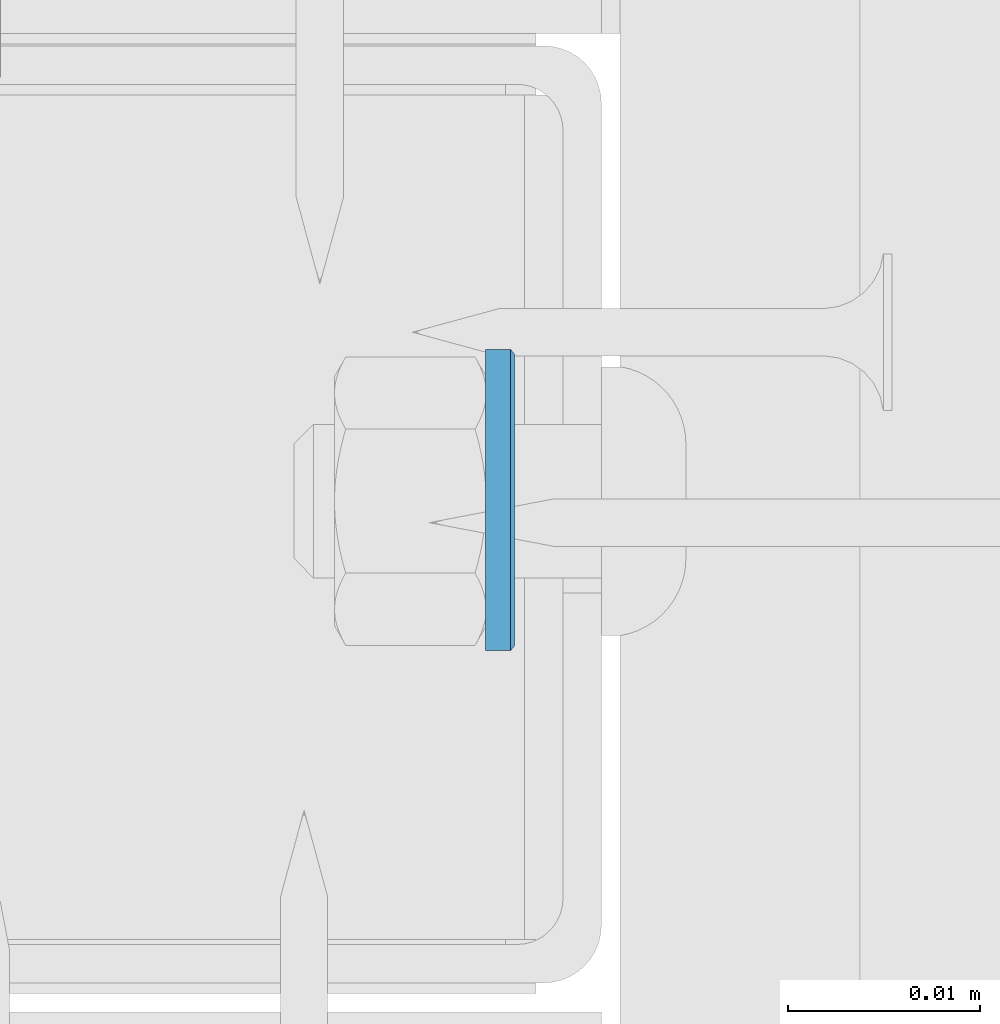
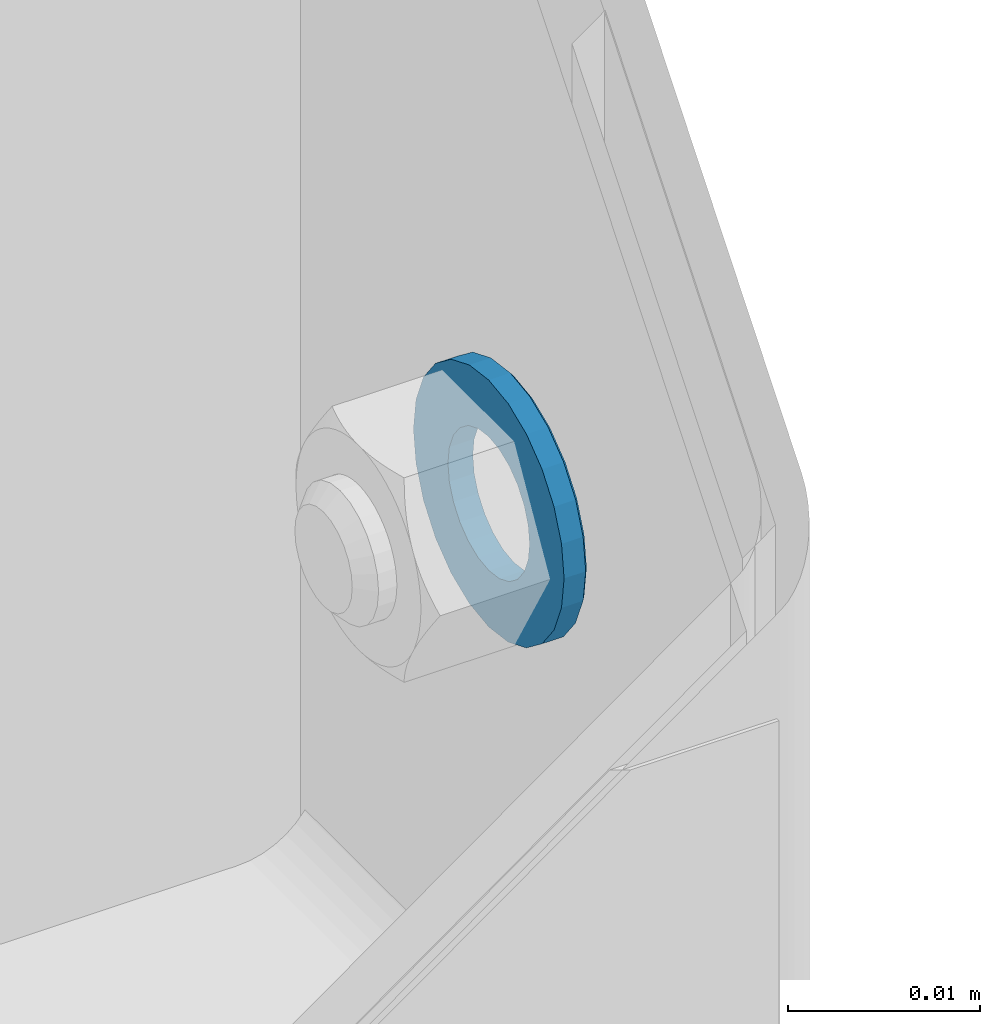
# One storey, part 48 of 52: 1 wall.
"""IFC2X3 building model written with IfcOpenShell, lengths in millimetres."""

from ifc_helpers import new_model, entity, si_unit, converted_unit, direction, frame, origin, origin_with_axes, place, context, project, spatial, faceted_brep, element, save


model = new_model("IFC2X3")

# Units and contexts
model_context = context("Model", 3, precision=1e-05, world=origin(), true_north=direction((0.0, 1.0, 0.0)))
ifc_project = project(units=[si_unit("LENGTHUNIT", "METRE", prefix="MILLI"), si_unit("AREAUNIT", "SQUARE_METRE"), si_unit("VOLUMEUNIT", "CUBIC_METRE"), converted_unit("PLANEANGLEUNIT", "DEGREE", entity("IfcPlaneAngleMeasure", 0.01745), si_unit("PLANEANGLEUNIT", "RADIAN"), dimensions=[0, 0, 0, 0, 0, 0, 0]), si_unit("SOLIDANGLEUNIT", "STERADIAN"), si_unit("MASSUNIT", "GRAM"), si_unit("TIMEUNIT", "SECOND"), si_unit("THERMODYNAMICTEMPERATUREUNIT", "DEGREE_CELSIUS"), si_unit("LUMINOUSINTENSITYUNIT", "LUMEN")], contexts=[model_context])

# Site, building, storey
site_placement = place(None, origin_with_axes())
site = spatial("IfcSite", under=ifc_project, at=site_placement, Name="Default Site", CompositionType="ELEMENT")
building_placement = place(site_placement, origin_with_axes())
building = spatial("IfcBuilding", under=site, at=building_placement, Name="Default Building", CompositionType="ELEMENT")
storey_placement = place(building_placement, origin_with_axes())
storey = spatial("IfcBuildingStorey", under=building, at=storey_placement, Name="Default Building Storey", CompositionType="ELEMENT", Elevation=0.0)

# Wall
wall_placement = place(storey_placement, frame((3482.398347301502, 1997.840795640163, 92.53402578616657), z_axis=(1.0, 0.0, 5.551115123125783e-17), x_axis=(5.551115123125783e-17, 0.0, -1.0)))
element("IfcWall", 1, at=wall_placement, inside=storey, Name="Śruba M8 do profila UA z podkładką i nakrętką", context=model_context, shape_type="Brep", body=[
    faceted_brep([(5.550788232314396, -5.550788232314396, 1.3), (6.798299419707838, -3.925000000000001, 1.3), (6.58179306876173, -3.800000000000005, 1.5), (5.374011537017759, -5.374011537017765, 1.5), (3.924999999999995, -6.798299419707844, 1.3), (3.799999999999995, -6.581793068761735, 1.5), (-7.582517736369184, 2.03172950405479, 1.3), (-7.849999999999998, 2.664535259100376e-15, 1.3), (-7.600000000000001, 4.440892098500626e-15, 1.5), (-7.34103627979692, 1.967024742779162, 1.5), (7.582517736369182, -2.031729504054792, 1.3), (7.341036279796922, -1.967024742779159, 1.5), (-5.550788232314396, 5.550788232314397, 1.3), (-6.79829941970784, 3.925000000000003, 1.3), (-6.581793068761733, 3.800000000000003, 1.5), (-5.374011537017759, 5.374011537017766, 1.5), (7.849999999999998, 8.881784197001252e-16, 1.3), (7.582517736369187, 2.031729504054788, 1.3), (7.341036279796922, 1.967024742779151, 1.5), (7.600000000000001, -2.664535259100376e-15, 1.5), (2.031729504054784, -7.582517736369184, 1.3), (1.967024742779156, -7.341036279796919, 1.5), (-8.881784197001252e-16, -7.849999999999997, 1.3), (-3.552713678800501e-15, -7.600000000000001, 1.5), (-2.031729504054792, -7.582517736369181, 1.3), (-1.967024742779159, -7.341036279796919, 1.5), (-3.925000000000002, -6.798299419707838, 1.3), (-3.800000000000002, -6.581793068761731, 1.5), (-5.5507882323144, -5.550788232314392, 1.3), (-5.374011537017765, -5.374011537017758, 1.5), (-6.798299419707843, -3.924999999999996, 1.3), (-6.581793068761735, -3.799999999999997, 1.5), (-7.582517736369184, -2.031729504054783, 1.3), (-7.34103627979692, -1.967024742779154, 1.5), (-3.924999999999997, 6.798299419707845, 1.3), (-3.799999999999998, 6.581793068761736, 1.5), (6.798299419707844, 3.925, 1.3), (6.581793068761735, 3.799999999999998, 1.5), (-2.031729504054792, -7.582517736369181, 0.0), (-8.881784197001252e-16, -7.849999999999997, 0.0), (2.031729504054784, -7.582517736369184, 0.0), (3.924999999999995, -6.798299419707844, 0.0), (-3.925000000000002, -6.798299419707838, 0.0), (5.550788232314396, -5.550788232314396, 0.0), (-7.582517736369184, -2.031729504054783, 0.0), (-6.798299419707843, -3.924999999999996, 0.0), (-5.5507882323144, -5.550788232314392, 0.0), (-7.849999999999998, 2.664535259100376e-15, 0.0), (-3.924999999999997, 6.798299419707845, 0.0), (-5.550788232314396, 5.550788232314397, 0.0), (-2.031729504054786, 7.582517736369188, 0.0), (-2.031729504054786, 7.582517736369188, 1.3), (6.798299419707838, -3.925000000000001, 0.0), (0.0, 7.849999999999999, 0.0), (0.0, 7.849999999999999, 1.3), (6.798299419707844, 3.925, 0.0), (5.550788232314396, 5.550788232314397, 0.0), (5.550788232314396, 5.550788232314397, 1.3), (7.582517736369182, -2.031729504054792, 0.0), (7.849999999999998, 8.881784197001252e-16, 0.0), (3.925000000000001, 6.798299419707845, 0.0), (3.925000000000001, 6.798299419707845, 1.3), (2.031729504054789, 7.582517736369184, 0.0), (2.031729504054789, 7.582517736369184, 1.3), (7.582517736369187, 2.031729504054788, 0.0), (-1.967024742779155, 7.341036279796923, 1.5), (1.77635683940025e-15, 7.600000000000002, 1.5), (-7.582517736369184, 2.03172950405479, 0.0), (-6.79829941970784, 3.925000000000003, 0.0), (-4.10518476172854, -1.09998094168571, 0.0), (-3.680607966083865, -2.124999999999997, 0.0), (-3.005203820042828, -3.005203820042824, 0.0), (-2.125000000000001, -3.680607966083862, 0.0), (-1.099980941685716, -4.105184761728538, 0.0), (-8.881784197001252e-16, -4.249999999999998, 0.0), (1.099980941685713, -4.105184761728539, 0.0), (2.124999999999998, -3.680607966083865, 0.0), (3.005203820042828, -3.005203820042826, 0.0), (3.680607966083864, -2.125, 0.0), (4.105184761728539, -1.099980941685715, 0.0), (4.25, 8.881784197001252e-16, 0.0), (4.105184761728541, 1.099980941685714, 0.0), (3.680607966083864, 2.125000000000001, 0.0), (3.005203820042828, 3.005203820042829, 0.0), (2.125, 3.680607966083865, 0.0), (1.099980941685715, 4.105184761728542, 0.0), (0.0, 4.250000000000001, 0.0), (-1.099980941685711, 4.105184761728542, 0.0), (-2.124999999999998, 3.680607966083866, 0.0), (-3.005203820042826, 3.005203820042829, 0.0), (-3.680607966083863, 2.125000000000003, 0.0), (-4.105184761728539, 1.099980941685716, 0.0), (-4.25, 8.881784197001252e-16, 0.0), (5.374011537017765, 5.37401153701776, 1.5), (1.967024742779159, 7.341036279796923, 1.5), (3.800000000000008, 6.581793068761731, 1.5), (-3.680607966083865, -2.124999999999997, 1.5), (-4.10518476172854, -1.09998094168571, 1.5), (-4.25, 8.881784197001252e-16, 1.5), (-4.105184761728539, 1.099980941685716, 1.5), (-3.680607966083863, 2.125000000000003, 1.5), (-3.005203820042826, 3.005203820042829, 1.5), (-2.124999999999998, 3.680607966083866, 1.5), (-1.099980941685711, 4.105184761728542, 1.5), (0.0, 4.250000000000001, 1.5), (1.099980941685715, 4.105184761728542, 1.5), (2.125, 3.680607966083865, 1.5), (3.005203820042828, 3.005203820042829, 1.5), (3.680607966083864, 2.125000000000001, 1.5), (4.105184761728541, 1.099980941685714, 1.5), (4.25, 8.881784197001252e-16, 1.5), (4.105184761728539, -1.099980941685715, 1.5), (3.680607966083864, -2.125, 1.5), (3.005203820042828, -3.005203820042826, 1.5), (2.124999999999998, -3.680607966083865, 1.5), (1.099980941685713, -4.105184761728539, 1.5), (-8.881784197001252e-16, -4.249999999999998, 1.5), (-1.099980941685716, -4.105184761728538, 1.5), (-2.125000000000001, -3.680607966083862, 1.5), (-3.005203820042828, -3.005203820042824, 1.5)], [[[0, 1, 2, 3]], [[4, 0, 3, 5]], [[6, 7, 8, 9]], [[1, 10, 11, 2]], [[12, 13, 14, 15]], [[16, 17, 18, 19]], [[10, 16, 19, 11]], [[20, 4, 5, 21]], [[22, 20, 21, 23]], [[24, 22, 23, 25]], [[26, 24, 25, 27]], [[28, 26, 27, 29]], [[30, 28, 29, 31]], [[32, 30, 31, 33]], [[7, 32, 33, 8]], [[34, 12, 15, 35]], [[13, 6, 9, 14]], [[17, 36, 37, 18]], [[38, 39, 22, 24]], [[39, 40, 20, 22]], [[40, 41, 4, 20]], [[42, 38, 24, 26]], [[41, 43, 0, 4]], [[44, 45, 30, 32]], [[45, 46, 28, 30]], [[46, 42, 26, 28]], [[47, 44, 32, 7]], [[48, 49, 12, 34]], [[50, 48, 34, 51]], [[43, 52, 1, 0]], [[53, 50, 51, 54]], [[55, 56, 57, 36]], [[58, 59, 16, 10]], [[56, 60, 61, 57]], [[52, 58, 10, 1]], [[62, 53, 54, 63]], [[59, 64, 17, 16]], [[60, 62, 63, 61]], [[64, 55, 36, 17]], [[51, 34, 35, 65]], [[54, 51, 65, 66]], [[49, 48, 50, 53, 62, 60, 56, 55, 64, 59, 58, 52, 43, 41, 40, 39, 38, 42, 46, 45, 44, 47, 67, 68], [69, 70, 71, 72, 73, 74, 75, 76, 77, 78, 79, 80, 81, 82, 83, 84, 85, 86, 87, 88, 89, 90, 91, 92]], [[36, 57, 93, 37]], [[63, 54, 66, 94]], [[61, 63, 94, 95]], [[57, 61, 95, 93]], [[9, 8, 33, 31, 29, 27, 25, 23, 21, 5, 3, 2, 11, 19, 18, 37, 93, 95, 94, 66, 65, 35, 15, 14], [96, 97, 98, 99, 100, 101, 102, 103, 104, 105, 106, 107, 108, 109, 110, 111, 112, 113, 114, 115, 116, 117, 118, 119]], [[69, 92, 98, 97]], [[92, 91, 99, 98]], [[90, 89, 101, 100]], [[91, 90, 100, 99]], [[83, 82, 108, 107]], [[81, 80, 110, 109]], [[73, 72, 118, 117]], [[85, 84, 106, 105]], [[78, 77, 113, 112]], [[79, 78, 112, 111]], [[75, 74, 116, 115]], [[84, 83, 107, 106]], [[67, 47, 7, 6]], [[68, 67, 6, 13]], [[74, 73, 117, 116]], [[49, 68, 13, 12]], [[82, 81, 109, 108]], [[80, 79, 111, 110]], [[70, 69, 97, 96]], [[87, 86, 104, 103]], [[86, 85, 105, 104]], [[71, 70, 96, 119]], [[76, 75, 115, 114]], [[72, 71, 119, 118]], [[77, 76, 114, 113]], [[88, 87, 103, 102]], [[89, 88, 102, 101]]]),
])

save(model, "model.ifc")
